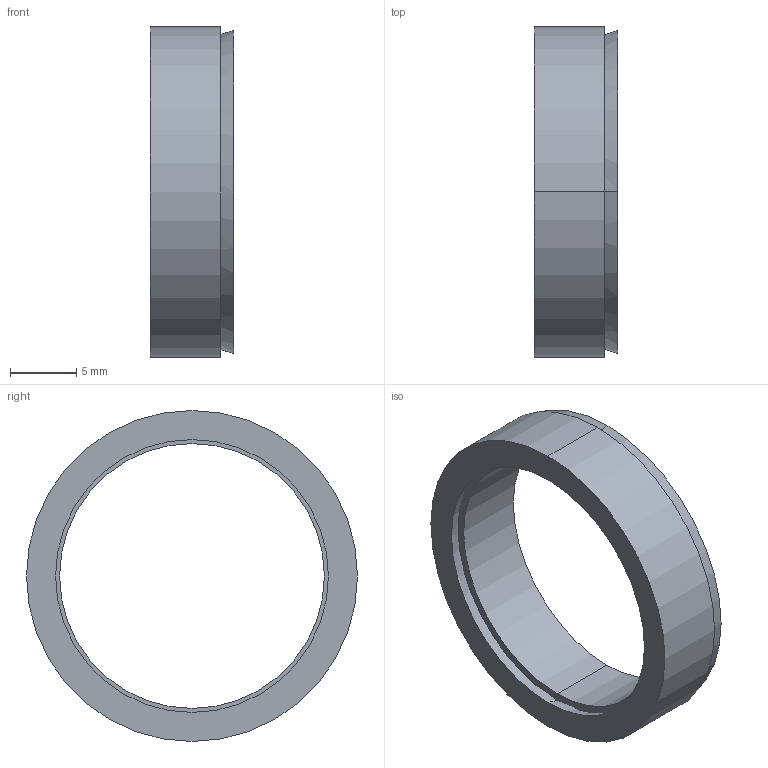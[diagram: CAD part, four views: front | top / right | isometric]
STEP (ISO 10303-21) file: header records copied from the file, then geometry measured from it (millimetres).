
FILE_DESCRIPTION (( 'STEP AP203' ), '1' );
FILE_NAME ('R-20-25.STEP', '2017-11-06T02:07:00', ( 'MYCOM' ), ( '' ), 'SwSTEP 2.0', 'SolidWorks 2015', '' );
FILE_SCHEMA (( 'CONFIG_CONTROL_DESIGN' ));
Length unit declared in the file: millimetre
Products named in the file (1): R-20-25
Bounding box: 6.3 x 25 x 25 mm (x, y, z)
Surface area: 1927.4 mm2 (no closed solid volume)
Topology: 0 solids, 2 shells, 12 faces, 24 edges, 16 vertices
Faces by surface type: cylinder 4, cone 4, plane 4
Entity records: 406 total; most frequent: DIRECTION 66, CARTESIAN_POINT 53, ORIENTED_EDGE 48, AXIS2_PLACEMENT_3D 29, EDGE_CURVE 24, EDGE_LOOP 16, CIRCLE 16, VERTEX_POINT 16
